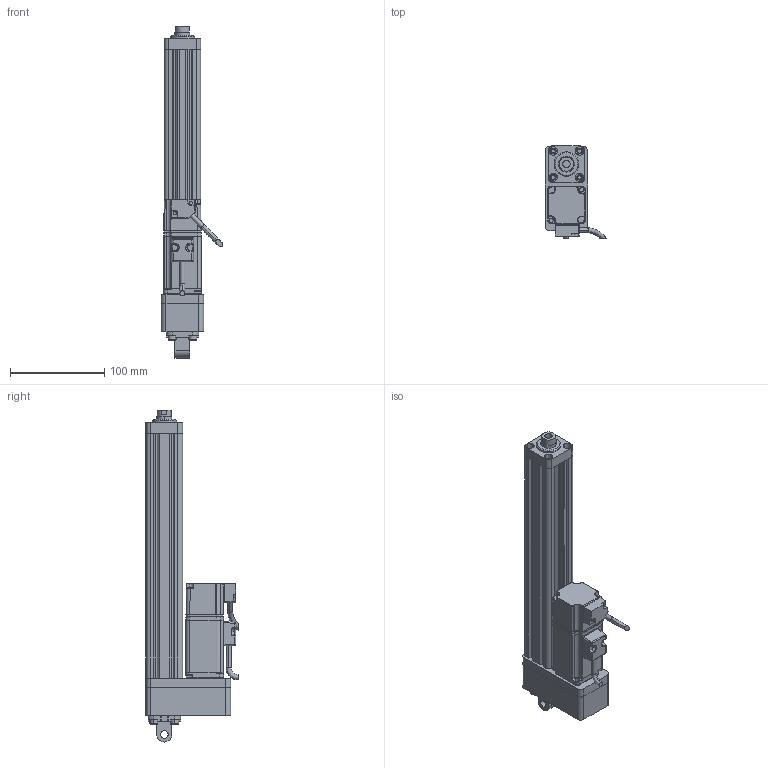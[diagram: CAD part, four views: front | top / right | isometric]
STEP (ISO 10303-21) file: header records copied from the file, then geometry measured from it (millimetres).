
FILE_DESCRIPTION (( 'STEP AP214' ), '1' );
FILE_NAME ('039-S200-D02-B-M5-C2-2.STEP', '2021-03-02T05:04:11', ( '' ), ( '' ), 'SwSTEP 2.0', 'SolidWorks 2018', '' );
FILE_SCHEMA (( 'AUTOMOTIVE_DESIGN' ));
Length unit declared in the file: millimetre
Products named in the file (8): CMC039-LJB; 039-S200-D02-B-M5-C2-2; ECMA-CX0401ES-40框號系列機種-100W低慣量系列; F-ACE20CA_ACE_; CMC039-FL; CMC039-DT; CMC039-GT; CMC039-HXT
Assembly tree (7 placements, depth 2):
  039-S200-D02-B-M5-C2-2
    CMC039-GT
    CMC039-LJB
    CMC039-FL
    CMC039-DT
    ECMA-CX0401ES-40框號系列機種-100W低慣量系列
    CMC039-HXT
    F-ACE20CA_ACE_
Bounding box: 65.34 x 97.89 x 353 mm (x, y, z)
Volume: 504411.3 mm3; surface area: 164887.9 mm2
Topology: 7 solids, 15 shells, 762 faces, 1992 edges, 1249 vertices
Faces by surface type: cylinder 321, plane 302, bspline 92, cone 47
Entity records: 29754 total; most frequent: CARTESIAN_POINT 11639, ORIENTED_EDGE 3918, DIRECTION 3319, EDGE_CURVE 1959, VERTEX_POINT 1249, AXIS2_PLACEMENT_3D 1176, VECTOR 967, LINE 967
